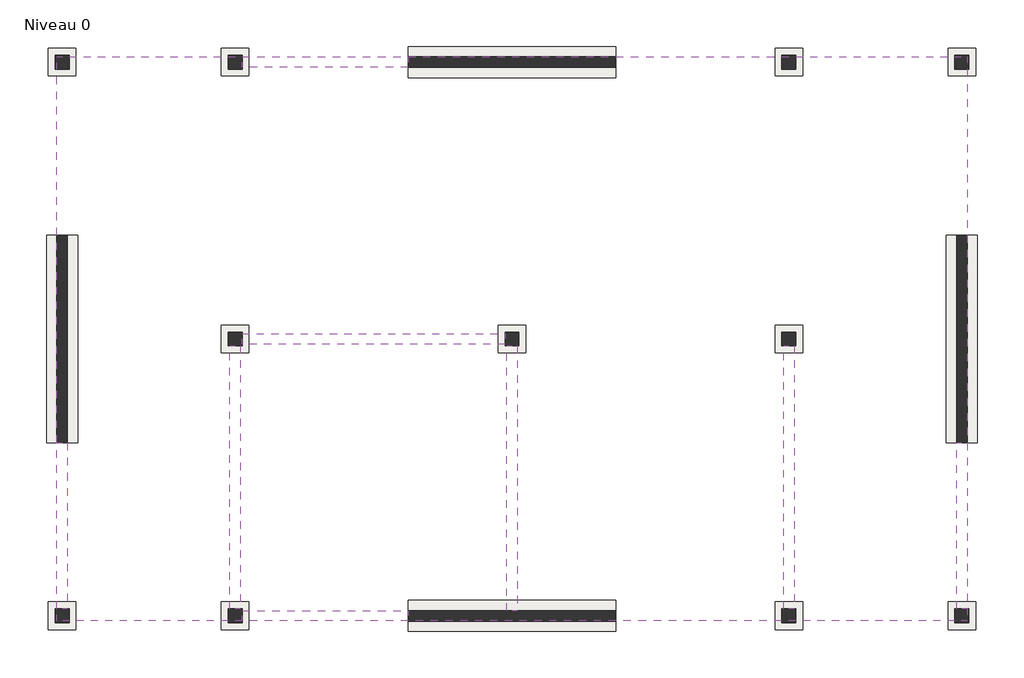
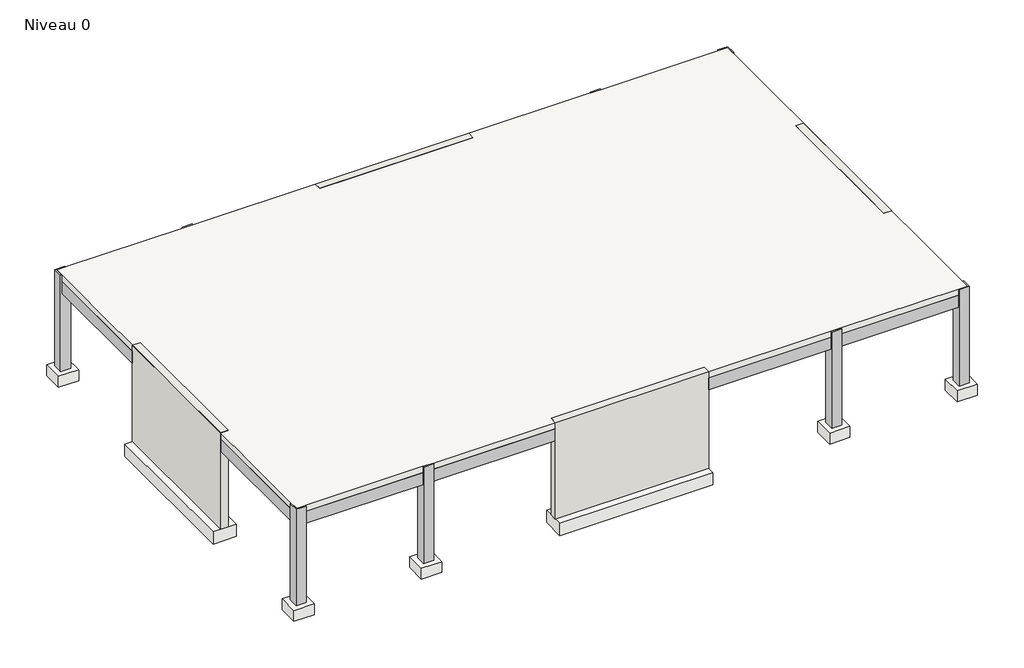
# One storey: 12 slabs, 11 columns, 8 beams, 4 footings, 4 walls.
"""IFC4 building model written with IfcOpenShell, lengths in millimetres."""

from ifc_helpers import new_model, si_unit, frame, origin, place, context, project, spatial, polyline, outline, extrude, faceted_brep, transform, mapped, element, save
from components import base_rectangulaire_c852994b

model = new_model("IFC4")

# Units and contexts
model_context = context("Model", 3, world=origin())
ifc_project = project(units=[si_unit("LENGTHUNIT", "METRE", prefix="MILLI")], contexts=[model_context])

# Site, building, storey
site = spatial("IfcSite", under=ifc_project)
building = spatial("IfcBuilding", under=site)
storey = spatial("IfcBuildingStorey", under=building, Name="Niveau 0", Elevation=0.0)

# Beams
placement = place(None, origin())
element("IfcBeam", 1, ObjectType="Poutre rectangulaire - Béton : 300 x 750 mm", at=placement, inside=storey, context=model_context, shape_type="SweptSolid", body=[
    extrude(outline(polyline([(-16808.6650278, 7952.7596515), (-16508.6650278, 7952.7596515), (-16508.6650278, 3152.7596515), (-16808.6650278, 3152.7596515), (-16808.6650278, 7952.7596515)])), frame((0.0, 0.0, 3250.0), z_axis=(0.0, 0.0, 1.0), x_axis=(1.0, 0.0, 0.0)), (0.0, 0.0, 1.0), 500.0),
    extrude(outline(polyline([(-16508.6650278, -7647.2403485), (-16808.6650278, -7647.2403485), (-16808.6650278, -2847.2403485), (-16508.6650278, -2847.2403485), (-16508.6650278, -7647.2403485)])), frame((0.0, 0.0, 3250.0), z_axis=(0.0, 0.0, 1.0), x_axis=(1.0, 0.0, 0.0)), (0.0, 0.0, 1.0), 500.0),
])
element("IfcBeam", 2, ObjectType="Poutre rectangulaire - Béton : 300 x 750 mm", at=placement, inside=storey, context=model_context, shape_type="SweptSolid", body=[
    extrude(outline(polyline([(-11808.6650278, 7952.7596515), (-11508.6650278, 7952.7596515), (-11508.6650278, 352.7596515), (-11808.6650278, 352.7596515), (-11808.6650278, 7952.7596515)])), frame((0.0, 0.0, 3250.0), z_axis=(0.0, 0.0, 1.0), x_axis=(1.0, 0.0, 0.0)), (0.0, 0.0, 1.0), 500.0),
    extrude(outline(polyline([(-11808.6650278, -47.2403485), (-11508.6650278, -47.2403485), (-11508.6650278, -7647.2403485), (-11808.6650278, -7647.2403485), (-11808.6650278, -47.2403485)])), frame((0.0, 0.0, 3250.0), z_axis=(0.0, 0.0, 1.0), x_axis=(1.0, 0.0, 0.0)), (0.0, 0.0, 1.0), 500.0),
])
element("IfcBeam", 3, ObjectType="Poutre rectangulaire - Béton : 300 x 750 mm", at=placement, inside=storey, context=model_context, shape_type="SweptSolid", body=[
    extrude(outline(polyline([(4491.3349722, 352.7596515), (4191.3349722, 352.7596515), (4191.3349722, 7952.7596515), (4491.3349722, 7952.7596515), (4491.3349722, 352.7596515)])), frame((0.0, 0.0, 3250.0), z_axis=(0.0, 0.0, 1.0), x_axis=(1.0, 0.0, 0.0)), (0.0, 0.0, 1.0), 500.0),
    extrude(outline(polyline([(4491.3349722, -7647.2403485), (4191.3349722, -7647.2403485), (4191.3349722, -47.2403485), (4491.3349722, -47.2403485), (4491.3349722, -7647.2403485)])), frame((0.0, 0.0, 3250.0), z_axis=(0.0, 0.0, 1.0), x_axis=(1.0, 0.0, 0.0)), (0.0, 0.0, 1.0), 500.0),
])
element("IfcBeam", 4, ObjectType="Poutre rectangulaire - Béton : 300 x 750 mm", at=placement, inside=storey, context=model_context, shape_type="SweptSolid", body=[
    extrude(outline(polyline([(9191.3349722, 7952.7596515), (9491.3349722, 7952.7596515), (9491.3349722, 3152.7596515), (9191.3349722, 3152.7596515), (9191.3349722, 7952.7596515)])), frame((0.0, 0.0, 3250.0), z_axis=(0.0, 0.0, 1.0), x_axis=(1.0, 0.0, 0.0)), (0.0, 0.0, 1.0), 500.0),
    extrude(outline(polyline([(9491.3349722, -7647.2403485), (9191.3349722, -7647.2403485), (9191.3349722, -2847.2403485), (9491.3349722, -2847.2403485), (9491.3349722, -7647.2403485)])), frame((0.0, 0.0, 3250.0), z_axis=(0.0, 0.0, 1.0), x_axis=(1.0, 0.0, 0.0)), (0.0, 0.0, 1.0), 500.0),
])
element("IfcBeam", 5, ObjectType="Poutre rectangulaire - Béton : 300 x 750 mm", at=placement, inside=storey, context=model_context, shape_type="SweptSolid", body=[
    extrude(outline(polyline([(9191.3349722, 302.7596515), (9191.3349722, 2.7596515), (4541.3349722, 2.7596515), (4541.3349722, 302.7596515), (9191.3349722, 302.7596515)])), frame((0.0, 0.0, 3250.0), z_axis=(0.0, 0.0, 1.0), x_axis=(1.0, 0.0, 0.0)), (0.0, 0.0, 1.0), 500.0),
    extrude(outline(polyline([(-16508.6650278, 2.7596515), (-16508.6650278, 302.7596515), (-11858.6650278, 302.7596515), (-11858.6650278, 2.7596515), (-16508.6650278, 2.7596515)])), frame((0.0, 0.0, 3250.0), z_axis=(0.0, 0.0, 1.0), x_axis=(1.0, 0.0, 0.0)), (0.0, 0.0, 1.0), 500.0),
    extrude(outline(polyline([(-11458.6650278, 2.7596515), (-11458.6650278, 302.7596515), (-3858.6650278, 302.7596515), (-3858.6650278, 2.7596515), (-11458.6650278, 2.7596515)])), frame((0.0, 0.0, 3250.0), z_axis=(0.0, 0.0, 1.0), x_axis=(1.0, 0.0, 0.0)), (0.0, 0.0, 1.0), 500.0),
    extrude(outline(polyline([(-3458.6650278, 2.7596515), (-3458.6650278, 302.7596515), (4141.3349722, 302.7596515), (4141.3349722, 2.7596515), (-3458.6650278, 2.7596515)])), frame((0.0, 0.0, 3250.0), z_axis=(0.0, 0.0, 1.0), x_axis=(1.0, 0.0, 0.0)), (0.0, 0.0, 1.0), 500.0),
])
element("IfcBeam", 6, ObjectType="Poutre rectangulaire - Béton : 300 x 750 mm", at=placement, inside=storey, context=model_context, shape_type="SweptSolid", body=[
    extrude(outline(polyline([(-3508.6650278, 8002.7596515), (-3508.6650278, 352.7596515), (-3808.6650278, 352.7596515), (-3808.6650278, 8002.7596515), (-3508.6650278, 8002.7596515)])), frame((0.0, 0.0, 3250.0), z_axis=(0.0, 0.0, 1.0), x_axis=(1.0, 0.0, 0.0)), (0.0, 0.0, 1.0), 500.0),
    extrude(outline(polyline([(-3508.6650278, -47.2403485), (-3508.6650278, -7697.2403485), (-3808.6650278, -7697.2403485), (-3808.6650278, -47.2403485), (-3508.6650278, -47.2403485)])), frame((0.0, 0.0, 3250.0), z_axis=(0.0, 0.0, 1.0), x_axis=(1.0, 0.0, 0.0)), (0.0, 0.0, 1.0), 500.0),
])
element("IfcBeam", 7, ObjectType="Poutre rectangulaire - Béton : 300 x 750 mm", at=placement, inside=storey, context=model_context, shape_type="SweptSolid", body=[
    extrude(outline(polyline([(-16458.6650278, -7997.2403485), (-16458.6650278, -7697.2403485), (-11858.6650278, -7697.2403485), (-11858.6650278, -7997.2403485), (-16458.6650278, -7997.2403485)])), frame((0.0, 0.0, 3250.0), z_axis=(0.0, 0.0, 1.0), x_axis=(1.0, 0.0, 0.0)), (0.0, 0.0, 1.0), 500.0),
    extrude(outline(polyline([(-11458.6650278, -7997.2403485), (-11458.6650278, -7697.2403485), (-6658.6650278, -7697.2403485), (-6658.6650278, -7997.2403485), (-11458.6650278, -7997.2403485)])), frame((0.0, 0.0, 3250.0), z_axis=(0.0, 0.0, 1.0), x_axis=(1.0, 0.0, 0.0)), (0.0, 0.0, 1.0), 500.0),
    extrude(outline(polyline([(9141.3349722, -7997.2403485), (4541.3349722, -7997.2403485), (4541.3349722, -7697.2403485), (9141.3349722, -7697.2403485), (9141.3349722, -7997.2403485)])), frame((0.0, 0.0, 3250.0), z_axis=(0.0, 0.0, 1.0), x_axis=(1.0, 0.0, 0.0)), (0.0, 0.0, 1.0), 500.0),
    extrude(outline(polyline([(4141.3349722, -7697.2403485), (4141.3349722, -7997.2403485), (-658.6650278, -7997.2403485), (-658.6650278, -7697.2403485), (4141.3349722, -7697.2403485)])), frame((0.0, 0.0, 3250.0), z_axis=(0.0, 0.0, 1.0), x_axis=(1.0, 0.0, 0.0)), (0.0, 0.0, 1.0), 500.0),
])
element("IfcBeam", 8, ObjectType="Poutre rectangulaire - Béton : 300 x 750 mm", at=placement, inside=storey, context=model_context, shape_type="SweptSolid", body=[
    extrude(outline(polyline([(-11858.6650278, 8002.7596515), (-16458.6650278, 8002.7596515), (-16458.6650278, 8302.7596515), (-11858.6650278, 8302.7596515), (-11858.6650278, 8002.7596515)])), frame((0.0, 0.0, 3250.0), z_axis=(0.0, 0.0, 1.0), x_axis=(1.0, 0.0, 0.0)), (0.0, 0.0, 1.0), 500.0),
    extrude(outline(polyline([(-11458.6650278, 8002.7596515), (-11458.6650278, 8302.7596515), (-6658.6650278, 8302.7596515), (-6658.6650278, 8002.7596515), (-11458.6650278, 8002.7596515)])), frame((0.0, 0.0, 3250.0), z_axis=(0.0, 0.0, 1.0), x_axis=(1.0, 0.0, 0.0)), (0.0, 0.0, 1.0), 500.0),
    extrude(outline(polyline([(9141.3349722, 8002.7596515), (4541.3349722, 8002.7596515), (4541.3349722, 8302.7596515), (9141.3349722, 8302.7596515), (9141.3349722, 8002.7596515)])), frame((0.0, 0.0, 3250.0), z_axis=(0.0, 0.0, 1.0), x_axis=(1.0, 0.0, 0.0)), (0.0, 0.0, 1.0), 500.0),
    extrude(outline(polyline([(4141.3349722, 8302.7596515), (4141.3349722, 8002.7596515), (-658.6650278, 8002.7596515), (-658.6650278, 8302.7596515), (4141.3349722, 8302.7596515)])), frame((0.0, 0.0, 3250.0), z_axis=(0.0, 0.0, 1.0), x_axis=(1.0, 0.0, 0.0)), (0.0, 0.0, 1.0), 500.0),
])

# Columns
element("IfcColumn", 9, ObjectType="Poteau béton - Carré : 400 mm x 400 mm", at=placement, inside=storey, context=model_context, shape_type="Brep", body=[
    faceted_brep([(-16458.6650278, 8352.7596515, 0.0), (-16458.6650278, 7952.7596515, 0.0), (-16858.6650278, 7952.7596515, 0.0), (-16858.6650278, 8352.7596515, 0.0), (-16458.6650278, 8352.7596515, 4000.0), (-16458.6650278, 8302.7596515, 4000.0), (-16458.6650278, 8302.7596515, 3750.0), (-16458.6650278, 8002.7596515, 3750.0), (-16458.6650278, 7952.7596515, 3750.0), (-16508.6650278, 7952.7596515, 3750.0), (-16808.6650278, 7952.7596515, 3750.0), (-16808.6650278, 7952.7596515, 4000.0), (-16858.6650278, 7952.7596515, 4000.0), (-16858.6650278, 8352.7596515, 4000.0), (-16808.6650278, 8302.7596515, 4000.0), (-16808.6650278, 8302.7596515, 3750.0)], [[[0, 1, 2, 3]], [[1, 0, 4, 5, 6, 7, 8]], [[2, 1, 8, 9, 10, 11, 12]], [[3, 2, 12, 13]], [[0, 3, 13, 4]], [[13, 12, 11, 14, 5, 4]], [[15, 14, 11, 10]], [[14, 15, 6, 5]], [[6, 15, 10, 9, 8, 7]]]),
])
element("IfcColumn", 10, ObjectType="Poteau béton - Carré : 400 mm x 400 mm", at=placement, inside=storey, context=model_context, shape_type="Brep", body=[
    faceted_brep([(-11458.6650278, 8352.7596515, 0.0), (-11458.6650278, 7952.7596515, 0.0), (-11858.6650278, 7952.7596515, 0.0), (-11858.6650278, 8352.7596515, 0.0), (-11458.6650278, 8352.7596515, 4000.0), (-11458.6650278, 8302.7596515, 4000.0), (-11458.6650278, 8302.7596515, 3750.0), (-11458.6650278, 8002.7596515, 3750.0), (-11458.6650278, 7952.7596515, 3750.0), (-11508.6650278, 7952.7596515, 3750.0), (-11808.6650278, 7952.7596515, 3750.0), (-11858.6650278, 7952.7596515, 3750.0), (-11858.6650278, 8002.7596515, 3750.0), (-11858.6650278, 8302.7596515, 3750.0), (-11858.6650278, 8302.7596515, 4000.0), (-11858.6650278, 8352.7596515, 4000.0)], [[[0, 1, 2, 3]], [[1, 0, 4, 5, 6, 7, 8]], [[2, 1, 8, 9, 10, 11]], [[3, 2, 11, 12, 13, 14, 15]], [[0, 3, 15, 4]], [[4, 15, 14, 5]], [[13, 6, 5, 14]], [[6, 13, 12, 11, 10, 9, 8, 7]]]),
])
element("IfcColumn", 11, ObjectType="Poteau béton - Carré : 400 mm x 400 mm", at=placement, inside=storey, context=model_context, shape_type="Brep", body=[
    faceted_brep([(-11458.6650278, 352.7596515, 0.0), (-11458.6650278, -47.2403485, 0.0), (-11858.6650278, -47.2403485, 0.0), (-11858.6650278, 352.7596515, 0.0), (-11458.6650278, 352.7596515, 3750.0), (-11458.6650278, 302.7596515, 3750.0), (-11458.6650278, 2.7596515, 3750.0), (-11458.6650278, -47.2403485, 3750.0), (-11508.6650278, -47.2403485, 3750.0), (-11808.6650278, -47.2403485, 3750.0), (-11858.6650278, -47.2403485, 3750.0), (-11858.6650278, 2.7596515, 3750.0), (-11858.6650278, 302.7596515, 3750.0), (-11858.6650278, 352.7596515, 3750.0), (-11808.6650278, 352.7596515, 3750.0), (-11508.6650278, 352.7596515, 3750.0)], [[[0, 1, 2, 3]], [[1, 0, 4, 5, 6, 7]], [[2, 1, 7, 8, 9, 10]], [[3, 2, 10, 11, 12, 13]], [[0, 3, 13, 14, 15, 4]], [[7, 6, 5, 4, 15, 14, 13, 12, 11, 10, 9, 8]]]),
])
element("IfcColumn", 12, ObjectType="Poteau béton - Carré : 400 mm x 400 mm", at=placement, inside=storey, context=model_context, shape_type="Brep", body=[
    faceted_brep([(-3458.6650278, 352.7596515, 0.0), (-3458.6650278, -47.2403485, 0.0), (-3858.6650278, -47.2403485, 0.0), (-3858.6650278, 352.7596515, 0.0), (-3458.6650278, 352.7596515, 3750.0), (-3458.6650278, 302.7596515, 3750.0), (-3458.6650278, 2.7596515, 3750.0), (-3458.6650278, -47.2403485, 3750.0), (-3508.6650278, -47.2403485, 3750.0), (-3808.6650278, -47.2403485, 3750.0), (-3858.6650278, -47.2403485, 3750.0), (-3858.6650278, 2.7596515, 3750.0), (-3858.6650278, 302.7596515, 3750.0), (-3858.6650278, 352.7596515, 3750.0), (-3808.6650278, 352.7596515, 3750.0), (-3508.6650278, 352.7596515, 3750.0)], [[[0, 1, 2, 3]], [[1, 0, 4, 5, 6, 7]], [[2, 1, 7, 8, 9, 10]], [[3, 2, 10, 11, 12, 13]], [[0, 3, 13, 14, 15, 4]], [[7, 6, 5, 4, 15, 14, 13, 12, 11, 10, 9, 8]]]),
])
element("IfcColumn", 13, ObjectType="Poteau béton - Carré : 400 mm x 400 mm", at=placement, inside=storey, context=model_context, shape_type="Brep", body=[
    faceted_brep([(-16458.6650278, -7647.2403485, 0.0), (-16458.6650278, -8047.2403485, 0.0), (-16858.6650278, -8047.2403485, 0.0), (-16858.6650278, -7647.2403485, 0.0), (-16458.6650278, -7647.2403485, 3750.0), (-16458.6650278, -7697.2403485, 3750.0), (-16458.6650278, -7997.2403485, 3750.0), (-16458.6650278, -7997.2403485, 4000.0), (-16458.6650278, -8047.2403485, 4000.0), (-16858.6650278, -8047.2403485, 4000.0), (-16858.6650278, -7647.2403485, 4000.0), (-16808.6650278, -7647.2403485, 4000.0), (-16808.6650278, -7647.2403485, 3750.0), (-16508.6650278, -7647.2403485, 3750.0), (-16808.6650278, -7997.2403485, 4000.0), (-16808.6650278, -7997.2403485, 3750.0)], [[[0, 1, 2, 3]], [[1, 0, 4, 5, 6, 7, 8]], [[2, 1, 8, 9]], [[3, 2, 9, 10]], [[0, 3, 10, 11, 12, 13, 4]], [[9, 8, 7, 14, 11, 10]], [[15, 14, 7, 6]], [[14, 15, 12, 11]], [[12, 15, 6, 5, 4, 13]]]),
])
element("IfcColumn", 14, ObjectType="Poteau béton - Carré : 400 mm x 400 mm", at=placement, inside=storey, context=model_context, shape_type="Brep", body=[
    faceted_brep([(-11458.6650278, -7647.2403485, 0.0), (-11458.6650278, -8047.2403485, 0.0), (-11858.6650278, -8047.2403485, 0.0), (-11858.6650278, -7647.2403485, 0.0), (-11458.6650278, -7647.2403485, 3750.0), (-11458.6650278, -7697.2403485, 3750.0), (-11458.6650278, -7997.2403485, 3750.0), (-11458.6650278, -7997.2403485, 4000.0), (-11458.6650278, -8047.2403485, 4000.0), (-11858.6650278, -8047.2403485, 4000.0), (-11858.6650278, -7997.2403485, 4000.0), (-11858.6650278, -7997.2403485, 3750.0), (-11858.6650278, -7697.2403485, 3750.0), (-11858.6650278, -7647.2403485, 3750.0), (-11808.6650278, -7647.2403485, 3750.0), (-11508.6650278, -7647.2403485, 3750.0)], [[[0, 1, 2, 3]], [[1, 0, 4, 5, 6, 7, 8]], [[2, 1, 8, 9]], [[3, 2, 9, 10, 11, 12, 13]], [[0, 3, 13, 14, 15, 4]], [[9, 8, 7, 10]], [[6, 11, 10, 7]], [[11, 6, 5, 4, 15, 14, 13, 12]]]),
])
element("IfcColumn", 15, ObjectType="Poteau béton - Carré : 400 mm x 400 mm", at=placement, inside=storey, context=model_context, shape_type="Brep", body=[
    faceted_brep([(4541.3349722, -7647.2403485, 0.0), (4541.3349722, -8047.2403485, 0.0), (4141.3349722, -8047.2403485, 0.0), (4141.3349722, -7647.2403485, 0.0), (4541.3349722, -7647.2403485, 3750.0), (4541.3349722, -7697.2403485, 3750.0), (4541.3349722, -7997.2403485, 3750.0), (4541.3349722, -7997.2403485, 4000.0), (4541.3349722, -8047.2403485, 4000.0), (4141.3349722, -8047.2403485, 4000.0), (4141.3349722, -7997.2403485, 4000.0), (4141.3349722, -7997.2403485, 3750.0), (4141.3349722, -7697.2403485, 3750.0), (4141.3349722, -7647.2403485, 3750.0), (4191.3349722, -7647.2403485, 3750.0), (4491.3349722, -7647.2403485, 3750.0)], [[[0, 1, 2, 3]], [[1, 0, 4, 5, 6, 7, 8]], [[2, 1, 8, 9]], [[3, 2, 9, 10, 11, 12, 13]], [[0, 3, 13, 14, 15, 4]], [[9, 8, 7, 10]], [[6, 11, 10, 7]], [[11, 6, 5, 4, 15, 14, 13, 12]]]),
])
element("IfcColumn", 16, ObjectType="Poteau béton - Carré : 400 mm x 400 mm", at=placement, inside=storey, context=model_context, shape_type="Brep", body=[
    faceted_brep([(9541.3349722, -7647.2403485, 0.0), (9541.3349722, -8047.2403485, 0.0), (9141.3349722, -8047.2403485, 0.0), (9141.3349722, -7647.2403485, 0.0), (9541.3349722, -7647.2403485, 4000.0), (9541.3349722, -8047.2403485, 4000.0), (9141.3349722, -8047.2403485, 4000.0), (9141.3349722, -7997.2403485, 4000.0), (9141.3349722, -7997.2403485, 3750.0), (9141.3349722, -7697.2403485, 3750.0), (9141.3349722, -7647.2403485, 3750.0), (9191.3349722, -7647.2403485, 3750.0), (9491.3349722, -7647.2403485, 3750.0), (9491.3349722, -7647.2403485, 4000.0), (9491.3349722, -7997.2403485, 4000.0), (9491.3349722, -7997.2403485, 3750.0)], [[[0, 1, 2, 3]], [[1, 0, 4, 5]], [[2, 1, 5, 6]], [[3, 2, 6, 7, 8, 9, 10]], [[0, 3, 10, 11, 12, 13, 4]], [[5, 4, 13, 14, 7, 6]], [[14, 15, 8, 7]], [[15, 14, 13, 12]], [[15, 12, 11, 10, 9, 8]]]),
])
element("IfcColumn", 17, ObjectType="Poteau béton - Carré : 400 mm x 400 mm", at=placement, inside=storey, context=model_context, shape_type="Brep", body=[
    faceted_brep([(4541.3349722, 352.7596515, 0.0), (4541.3349722, -47.2403485, 0.0), (4141.3349722, -47.2403485, 0.0), (4141.3349722, 352.7596515, 0.0), (4541.3349722, 352.7596515, 3750.0), (4541.3349722, 302.7596515, 3750.0), (4541.3349722, 2.7596515, 3750.0), (4541.3349722, -47.2403485, 3750.0), (4491.3349722, -47.2403485, 3750.0), (4191.3349722, -47.2403485, 3750.0), (4141.3349722, -47.2403485, 3750.0), (4141.3349722, 2.7596515, 3750.0), (4141.3349722, 302.7596515, 3750.0), (4141.3349722, 352.7596515, 3750.0), (4191.3349722, 352.7596515, 3750.0), (4491.3349722, 352.7596515, 3750.0)], [[[0, 1, 2, 3]], [[1, 0, 4, 5, 6, 7]], [[2, 1, 7, 8, 9, 10]], [[3, 2, 10, 11, 12, 13]], [[0, 3, 13, 14, 15, 4]], [[7, 6, 5, 4, 15, 14, 13, 12, 11, 10, 9, 8]]]),
])
element("IfcColumn", 18, ObjectType="Poteau béton - Carré : 400 mm x 400 mm", at=placement, inside=storey, context=model_context, shape_type="Brep", body=[
    faceted_brep([(4541.3349722, 8352.7596515, 0.0), (4541.3349722, 7952.7596515, 0.0), (4141.3349722, 7952.7596515, 0.0), (4141.3349722, 8352.7596515, 0.0), (4541.3349722, 8352.7596515, 4000.0), (4541.3349722, 8302.7596515, 4000.0), (4541.3349722, 8302.7596515, 3750.0), (4541.3349722, 8002.7596515, 3750.0), (4541.3349722, 7952.7596515, 3750.0), (4491.3349722, 7952.7596515, 3750.0), (4191.3349722, 7952.7596515, 3750.0), (4141.3349722, 7952.7596515, 3750.0), (4141.3349722, 8002.7596515, 3750.0), (4141.3349722, 8302.7596515, 3750.0), (4141.3349722, 8302.7596515, 4000.0), (4141.3349722, 8352.7596515, 4000.0)], [[[0, 1, 2, 3]], [[1, 0, 4, 5, 6, 7, 8]], [[2, 1, 8, 9, 10, 11]], [[3, 2, 11, 12, 13, 14, 15]], [[0, 3, 15, 4]], [[4, 15, 14, 5]], [[13, 6, 5, 14]], [[6, 13, 12, 11, 10, 9, 8, 7]]]),
])
element("IfcColumn", 19, ObjectType="Poteau béton - Carré : 400 mm x 400 mm", at=placement, inside=storey, context=model_context, shape_type="Brep", body=[
    faceted_brep([(9541.3349722, 8352.7596515, 0.0), (9541.3349722, 7952.7596515, 0.0), (9141.3349722, 7952.7596515, 0.0), (9141.3349722, 8352.7596515, 0.0), (9541.3349722, 8352.7596515, 4000.0), (9541.3349722, 7952.7596515, 4000.0), (9491.3349722, 7952.7596515, 4000.0), (9491.3349722, 7952.7596515, 3750.0), (9191.3349722, 7952.7596515, 3750.0), (9141.3349722, 7952.7596515, 3750.0), (9141.3349722, 8002.7596515, 3750.0), (9141.3349722, 8302.7596515, 3750.0), (9141.3349722, 8302.7596515, 4000.0), (9141.3349722, 8352.7596515, 4000.0), (9491.3349722, 8302.7596515, 4000.0), (9491.3349722, 8302.7596515, 3750.0)], [[[0, 1, 2, 3]], [[1, 0, 4, 5]], [[2, 1, 5, 6, 7, 8, 9]], [[3, 2, 9, 10, 11, 12, 13]], [[0, 3, 13, 4]], [[5, 4, 13, 12, 14, 6]], [[15, 14, 12, 11]], [[14, 15, 7, 6]], [[7, 15, 11, 10, 9, 8]]]),
])

# Footings
element("IfcFooting", 20, ObjectType="Soubassement 30 cm/30 cm x 50 cm", at=placement, inside=storey, context=model_context, shape_type="SweptSolid", body=[
    extrude(outline(polyline([(-6658.6650278, -8297.2403485), (-6658.6650278, -7397.2403485), (-658.6650278, -7397.2403485), (-658.6650278, -8297.2403485), (-6658.6650278, -8297.2403485)])), frame((0.0, 0.0, -500.0), z_axis=(0.0, 0.0, 1.0), x_axis=(1.0, 0.0, 0.0)), (0.0, 0.0, 1.0), 500.0),
])
element("IfcFooting", 21, ObjectType="Soubassement 30 cm/30 cm x 50 cm", at=placement, inside=storey, context=model_context, shape_type="SweptSolid", body=[
    extrude(outline(polyline([(9791.3349722, -2847.2403485), (8891.3349722, -2847.2403485), (8891.3349722, 3152.7596515), (9791.3349722, 3152.7596515), (9791.3349722, -2847.2403485)])), frame((0.0, 0.0, -500.0), z_axis=(0.0, 0.0, 1.0), x_axis=(1.0, 0.0, 0.0)), (0.0, 0.0, 1.0), 500.0),
])
element("IfcFooting", 22, ObjectType="Soubassement 30 cm/30 cm x 50 cm", at=placement, inside=storey, context=model_context, shape_type="SweptSolid", body=[
    extrude(outline(polyline([(-6658.6650278, 7702.7596515), (-6658.6650278, 8602.7596515), (-658.6650278, 8602.7596515), (-658.6650278, 7702.7596515), (-6658.6650278, 7702.7596515)])), frame((0.0, 0.0, -500.0), z_axis=(0.0, 0.0, 1.0), x_axis=(1.0, 0.0, 0.0)), (0.0, 0.0, 1.0), 500.0),
])
element("IfcFooting", 23, ObjectType="Soubassement 30 cm/30 cm x 50 cm", at=placement, inside=storey, context=model_context, shape_type="SweptSolid", body=[
    extrude(outline(polyline([(-16208.6650278, -2847.2403485), (-17108.6650278, -2847.2403485), (-17108.6650278, 3152.7596515), (-16208.6650278, 3152.7596515), (-16208.6650278, -2847.2403485)])), frame((0.0, 0.0, -500.0), z_axis=(0.0, 0.0, 1.0), x_axis=(1.0, 0.0, 0.0)), (0.0, 0.0, 1.0), 500.0),
])

# Slabs
element("IfcSlab", 24, ObjectType="Dalle en béton - 250 mm", at=placement, inside=storey, context=model_context, shape_type="Brep", body=[
    faceted_brep([(9491.3349722, -7997.2403485, 3750.0), (9141.3349722, -7997.2403485, 3750.0), (4541.3349722, -7997.2403485, 3750.0), (4141.3349722, -7997.2403485, 3750.0), (-658.6650278, -7997.2403485, 3750.0), (-6658.6650278, -7997.2403485, 3750.0), (-11458.6650278, -7997.2403485, 3750.0), (-11858.6650278, -7997.2403485, 3750.0), (-16458.6650278, -7997.2403485, 3750.0), (-16808.6650278, -7997.2403485, 3750.0), (-16808.6650278, -7647.2403485, 3750.0), (-16808.6650278, -2847.2403485, 3750.0), (-16808.6650278, 3152.7596515, 3750.0), (-16808.6650278, 7952.7596515, 3750.0), (-16808.6650278, 8302.7596515, 3750.0), (-16458.6650278, 8302.7596515, 3750.0), (-11858.6650278, 8302.7596515, 3750.0), (-11458.6650278, 8302.7596515, 3750.0), (-6658.6650278, 8302.7596515, 3750.0), (-658.6650278, 8302.7596515, 3750.0), (4141.3349722, 8302.7596515, 3750.0), (4541.3349722, 8302.7596515, 3750.0), (9141.3349722, 8302.7596515, 3750.0), (9491.3349722, 8302.7596515, 3750.0), (9491.3349722, 7952.7596515, 3750.0), (9491.3349722, 3152.7596515, 3750.0), (9491.3349722, -2847.2403485, 3750.0), (9491.3349722, -7647.2403485, 3750.0), (9491.3349722, -7997.2403485, 4000.0), (9491.3349722, -7647.2403485, 4000.0), (9491.3349722, 7952.7596515, 4000.0), (9491.3349722, 8302.7596515, 4000.0), (9141.3349722, 8302.7596515, 4000.0), (4541.3349722, 8302.7596515, 4000.0), (4141.3349722, 8302.7596515, 4000.0), (-11458.6650278, 8302.7596515, 4000.0), (-11858.6650278, 8302.7596515, 4000.0), (-16458.6650278, 8302.7596515, 4000.0), (-16808.6650278, 8302.7596515, 4000.0), (-16808.6650278, 7952.7596515, 4000.0), (-16808.6650278, -7647.2403485, 4000.0), (-16808.6650278, -7997.2403485, 4000.0), (-16458.6650278, -7997.2403485, 4000.0), (-11858.6650278, -7997.2403485, 4000.0), (-11458.6650278, -7997.2403485, 4000.0), (4141.3349722, -7997.2403485, 4000.0), (4541.3349722, -7997.2403485, 4000.0), (9141.3349722, -7997.2403485, 4000.0)], [[[0, 1, 2, 3, 4, 5, 6, 7, 8, 9, 10, 11, 12, 13, 14, 15, 16, 17, 18, 19, 20, 21, 22, 23, 24, 25, 26, 27]], [[28, 29, 30, 31, 32, 33, 34, 35, 36, 37, 38, 39, 40, 41, 42, 43, 44, 45, 46, 47]], [[9, 8, 7, 6, 5, 4, 3, 2, 1, 0, 28, 47, 46, 45, 44, 43, 42, 41]], [[14, 13, 12, 11, 10, 9, 41, 40, 39, 38]], [[23, 22, 21, 20, 19, 18, 17, 16, 15, 14, 38, 37, 36, 35, 34, 33, 32, 31]], [[0, 27, 26, 25, 24, 23, 31, 30, 29, 28]]]),
])
base_rectangulaire_shape = base_rectangulaire_c852994b(model_context)
element("IfcSlab", 25, ObjectType="Base rectangulaire : 800 mm x 800 mm x 450 mm", at=placement, inside=storey, context=model_context, shape_type="MappedRepresentation", body=[
    mapped(base_rectangulaire_shape, transform((-16658.6650278, -7847.2403485, 0.0), x_axis=(1.0, 0.0, 0.0), y_axis=(0.0, 1.0, 0.0), z_axis=(0.0, 0.0, 1.0))),
])
element("IfcSlab", 26, ObjectType="Base rectangulaire : 800 mm x 800 mm x 450 mm", at=placement, inside=storey, context=model_context, shape_type="MappedRepresentation", body=[
    mapped(base_rectangulaire_shape, transform((-11658.6650278, -7847.2403485, 0.0), x_axis=(1.0, 0.0, 0.0), y_axis=(0.0, 1.0, 0.0), z_axis=(0.0, 0.0, 1.0))),
])
element("IfcSlab", 27, ObjectType="Base rectangulaire : 800 mm x 800 mm x 450 mm", at=placement, inside=storey, context=model_context, shape_type="MappedRepresentation", body=[
    mapped(base_rectangulaire_shape, transform((4341.3349722, -7847.2403485, 0.0), x_axis=(1.0, 0.0, 0.0), y_axis=(0.0, 1.0, 0.0), z_axis=(0.0, 0.0, 1.0))),
])
element("IfcSlab", 28, ObjectType="Base rectangulaire : 800 mm x 800 mm x 450 mm", at=placement, inside=storey, context=model_context, shape_type="MappedRepresentation", body=[
    mapped(base_rectangulaire_shape, transform((9341.3349722, -7847.2403485, 0.0), x_axis=(1.0, 0.0, 0.0), y_axis=(0.0, 1.0, 0.0), z_axis=(0.0, 0.0, 1.0))),
])
element("IfcSlab", 29, ObjectType="Base rectangulaire : 800 mm x 800 mm x 450 mm", at=placement, inside=storey, context=model_context, shape_type="MappedRepresentation", body=[
    mapped(base_rectangulaire_shape, transform((-11658.6650278, 152.7596515, 0.0), x_axis=(1.0, 0.0, 0.0), y_axis=(0.0, 1.0, 0.0), z_axis=(0.0, 0.0, 1.0))),
])
element("IfcSlab", 30, ObjectType="Base rectangulaire : 800 mm x 800 mm x 450 mm", at=placement, inside=storey, context=model_context, shape_type="MappedRepresentation", body=[
    mapped(base_rectangulaire_shape, transform((-3658.6650278, 152.7596515, 0.0), x_axis=(1.0, 0.0, 0.0), y_axis=(0.0, 1.0, 0.0), z_axis=(0.0, 0.0, 1.0))),
])
element("IfcSlab", 31, ObjectType="Base rectangulaire : 800 mm x 800 mm x 450 mm", at=placement, inside=storey, context=model_context, shape_type="MappedRepresentation", body=[
    mapped(base_rectangulaire_shape, transform((4341.3349722, 152.7596515, 0.0), x_axis=(1.0, 0.0, 0.0), y_axis=(0.0, 1.0, 0.0), z_axis=(0.0, 0.0, 1.0))),
])
element("IfcSlab", 32, ObjectType="Base rectangulaire : 800 mm x 800 mm x 450 mm", at=placement, inside=storey, context=model_context, shape_type="MappedRepresentation", body=[
    mapped(base_rectangulaire_shape, transform((-16658.6650278, 8152.7596515, 0.0), x_axis=(1.0, 0.0, 0.0), y_axis=(0.0, 1.0, 0.0), z_axis=(0.0, 0.0, 1.0))),
])
element("IfcSlab", 33, ObjectType="Base rectangulaire : 800 mm x 800 mm x 450 mm", at=placement, inside=storey, context=model_context, shape_type="MappedRepresentation", body=[
    mapped(base_rectangulaire_shape, transform((-11658.6650278, 8152.7596515, 0.0), x_axis=(1.0, 0.0, 0.0), y_axis=(0.0, 1.0, 0.0), z_axis=(0.0, 0.0, 1.0))),
])
element("IfcSlab", 34, ObjectType="Base rectangulaire : 800 mm x 800 mm x 450 mm", at=placement, inside=storey, context=model_context, shape_type="MappedRepresentation", body=[
    mapped(base_rectangulaire_shape, transform((4341.3349722, 8152.7596515, 0.0), x_axis=(1.0, 0.0, 0.0), y_axis=(0.0, 1.0, 0.0), z_axis=(0.0, 0.0, 1.0))),
])
element("IfcSlab", 35, ObjectType="Base rectangulaire : 800 mm x 800 mm x 450 mm", at=placement, inside=storey, context=model_context, shape_type="MappedRepresentation", body=[
    mapped(base_rectangulaire_shape, transform((9341.3349722, 8152.7596515, 0.0), x_axis=(1.0, 0.0, 0.0), y_axis=(0.0, 1.0, 0.0), z_axis=(0.0, 0.0, 1.0))),
])

# Walls
element("IfcWall", 36, ObjectType="Ext. Voile BA 30", at=placement, inside=storey, context=model_context, shape_type="Brep", body=[
    faceted_brep([(-6658.6650278, 8002.7596515, 0.0), (-658.6650278, 8002.7596515, 0.0), (-658.6650278, 8002.7596515, 3250.0), (-658.6650278, 8002.7596515, 3750.0), (-658.6650278, 8002.7596515, 4000.0), (-6658.6650278, 8002.7596515, 4000.0), (-6658.6650278, 8002.7596515, 3750.0), (-6658.6650278, 8002.7596515, 3250.0), (-6658.6650278, 8302.7596515, 0.0), (-6658.6650278, 8302.7596515, 3250.0), (-6658.6650278, 8302.7596515, 3750.0), (-6658.6650278, 8302.7596515, 4000.0), (-658.6650278, 8302.7596515, 4000.0), (-658.6650278, 8302.7596515, 3750.0), (-658.6650278, 8302.7596515, 3250.0), (-658.6650278, 8302.7596515, 0.0)], [[[0, 1, 2, 3, 4, 5, 6, 7]], [[8, 9, 10, 11, 12, 13, 14, 15]], [[1, 0, 8, 15]], [[4, 3, 2, 1, 15, 14, 13, 12]], [[5, 4, 12, 11]], [[0, 7, 6, 5, 11, 10, 9, 8]]]),
])
element("IfcWall", 37, ObjectType="Ext. Voile BA 30", at=placement, inside=storey, context=model_context, shape_type="Brep", body=[
    faceted_brep([(-6658.6650278, -7997.2403485, 0.0), (-658.6650278, -7997.2403485, 0.0), (-658.6650278, -7997.2403485, 3250.0), (-658.6650278, -7997.2403485, 3750.0), (-658.6650278, -7997.2403485, 4000.0), (-6658.6650278, -7997.2403485, 4000.0), (-6658.6650278, -7997.2403485, 3750.0), (-6658.6650278, -7997.2403485, 3250.0), (-6658.6650278, -7697.2403485, 0.0), (-6658.6650278, -7697.2403485, 3250.0), (-6658.6650278, -7697.2403485, 3750.0), (-6658.6650278, -7697.2403485, 4000.0), (-658.6650278, -7697.2403485, 4000.0), (-658.6650278, -7697.2403485, 3750.0), (-658.6650278, -7697.2403485, 3250.0), (-658.6650278, -7697.2403485, 0.0)], [[[0, 1, 2, 3, 4, 5, 6, 7]], [[8, 9, 10, 11, 12, 13, 14, 15]], [[1, 0, 8, 15]], [[4, 3, 2, 1, 15, 14, 13, 12]], [[5, 4, 12, 11]], [[0, 7, 6, 5, 11, 10, 9, 8]]]),
])
element("IfcWall", 38, ObjectType="Ext. Voile BA 30", at=placement, inside=storey, context=model_context, shape_type="Brep", body=[
    faceted_brep([(-16508.6650278, -2847.2403485, 0.0), (-16508.6650278, 3152.7596515, 0.0), (-16508.6650278, 3152.7596515, 3250.0), (-16508.6650278, 3152.7596515, 3750.0), (-16508.6650278, 3152.7596515, 4000.0), (-16508.6650278, -2847.2403485, 4000.0), (-16508.6650278, -2847.2403485, 3750.0), (-16508.6650278, -2847.2403485, 3250.0), (-16808.6650278, -2847.2403485, 0.0), (-16808.6650278, -2847.2403485, 3250.0), (-16808.6650278, -2847.2403485, 3750.0), (-16808.6650278, -2847.2403485, 4000.0), (-16808.6650278, 3152.7596515, 4000.0), (-16808.6650278, 3152.7596515, 3750.0), (-16808.6650278, 3152.7596515, 3250.0), (-16808.6650278, 3152.7596515, 0.0)], [[[0, 1, 2, 3, 4, 5, 6, 7]], [[8, 9, 10, 11, 12, 13, 14, 15]], [[1, 0, 8, 15]], [[4, 3, 2, 1, 15, 14, 13, 12]], [[5, 4, 12, 11]], [[0, 7, 6, 5, 11, 10, 9, 8]]]),
])
element("IfcWall", 39, ObjectType="Ext. Voile BA 30", at=placement, inside=storey, context=model_context, shape_type="Brep", body=[
    faceted_brep([(9491.3349722, -2847.2403485, 0.0), (9491.3349722, 3152.7596515, 0.0), (9491.3349722, 3152.7596515, 3250.0), (9491.3349722, 3152.7596515, 3750.0), (9491.3349722, 3152.7596515, 4000.0), (9491.3349722, -2847.2403485, 4000.0), (9491.3349722, -2847.2403485, 3750.0), (9491.3349722, -2847.2403485, 3250.0), (9191.3349722, -2847.2403485, 0.0), (9191.3349722, -2847.2403485, 3250.0), (9191.3349722, -2847.2403485, 3750.0), (9191.3349722, -2847.2403485, 4000.0), (9191.3349722, 3152.7596515, 4000.0), (9191.3349722, 3152.7596515, 3750.0), (9191.3349722, 3152.7596515, 3250.0), (9191.3349722, 3152.7596515, 0.0)], [[[0, 1, 2, 3, 4, 5, 6, 7]], [[8, 9, 10, 11, 12, 13, 14, 15]], [[1, 0, 8, 15]], [[4, 3, 2, 1, 15, 14, 13, 12]], [[5, 4, 12, 11]], [[0, 7, 6, 5, 11, 10, 9, 8]]]),
])

save(model, "model.ifc")
